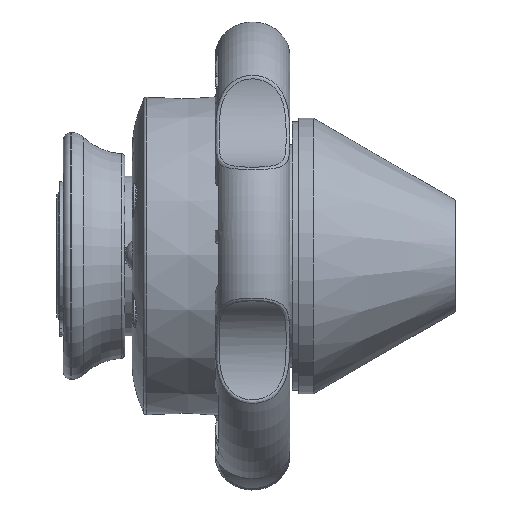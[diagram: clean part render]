
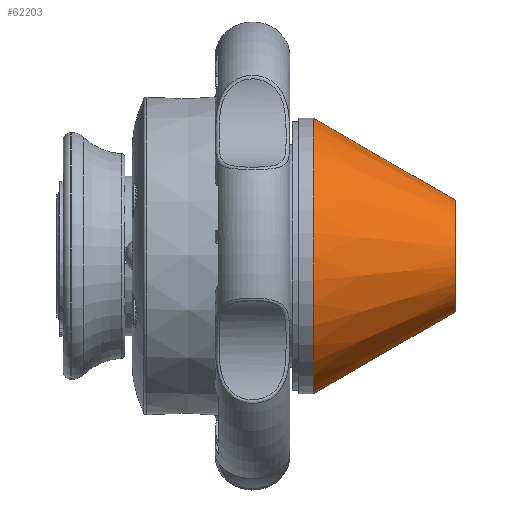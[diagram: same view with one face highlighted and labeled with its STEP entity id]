
A CAD part, top view. The second image highlights one B-rep face of the part: STEP entity #62203.
In plain terms, the highlighted conical face has half-angle 30 degrees and reference radius 37 mm.
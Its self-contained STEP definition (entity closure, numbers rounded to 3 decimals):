
#888 = ORIENTED_EDGE ( 'NONE', *, *, #4765, .T. ) ;
#4765 = EDGE_CURVE ( 'NONE', #99095, #99095, #71229, .T. ) ;
#5144 = EDGE_LOOP ( 'NONE', ( #888 ) ) ;
#19532 = DIRECTION ( 'NONE',  ( 0., -0.771, 0.637 ) ) ;
#20012 = AXIS2_PLACEMENT_3D ( 'NONE', #99220, #97195, #19532 ) ;
#20973 = DIRECTION ( 'NONE',  ( -1., 0., 0. ) ) ;
#25059 = CARTESIAN_POINT ( 'NONE',  ( 26.06, 0., 0. ) ) ;
#27428 = AXIS2_PLACEMENT_3D ( 'NONE', #55854, #94412, #56877 ) ;
#38306 = ORIENTED_EDGE ( 'NONE', *, *, #55505, .T. ) ;
#42265 = FACE_OUTER_BOUND ( 'NONE', #5144, .T. ) ;
#54889 = VERTEX_POINT ( 'NONE', #85368 ) ;
#55505 = EDGE_CURVE ( 'NONE', #54889, #54889, #62255, .T. ) ;
#55854 = CARTESIAN_POINT ( 'NONE',  ( 26.06, 0., 0. ) ) ;
#56877 = DIRECTION ( 'NONE',  ( 0., -0.771, 0.637 ) ) ;
#60098 = DIRECTION ( 'NONE',  ( 0., -0.771, 0.637 ) ) ;
#60528 = CARTESIAN_POINT ( 'NONE',  ( 26.06, -28.509, 23.585 ) ) ;
#62203 = ADVANCED_FACE ( 'NONE', ( #42265, #79424 ), #76039, .T. ) ;
#62255 = CIRCLE ( 'NONE', #20012, 15. ) ;
#71229 = CIRCLE ( 'NONE', #27428, 37. ) ;
#76039 = CONICAL_SURFACE ( 'NONE', #79323, 37., 0.524 ) ;
#79323 = AXIS2_PLACEMENT_3D ( 'NONE', #25059, #20973, #60098 ) ;
#79424 = FACE_BOUND ( 'NONE', #95824, .T. ) ;
#85368 = CARTESIAN_POINT ( 'NONE',  ( 64.165, -11.558, 9.562 ) ) ;
#94412 = DIRECTION ( 'NONE',  ( 1., 0., 0. ) ) ;
#95824 = EDGE_LOOP ( 'NONE', ( #38306 ) ) ;
#97195 = DIRECTION ( 'NONE',  ( -1., 0., 0. ) ) ;
#99095 = VERTEX_POINT ( 'NONE', #60528 ) ;
#99220 = CARTESIAN_POINT ( 'NONE',  ( 64.165, 0., 0. ) ) ;
